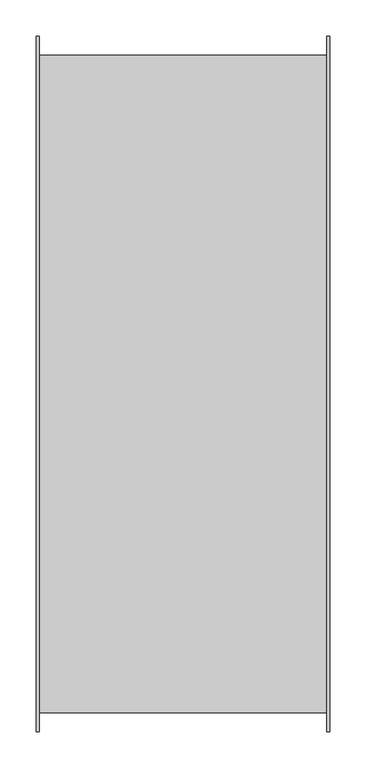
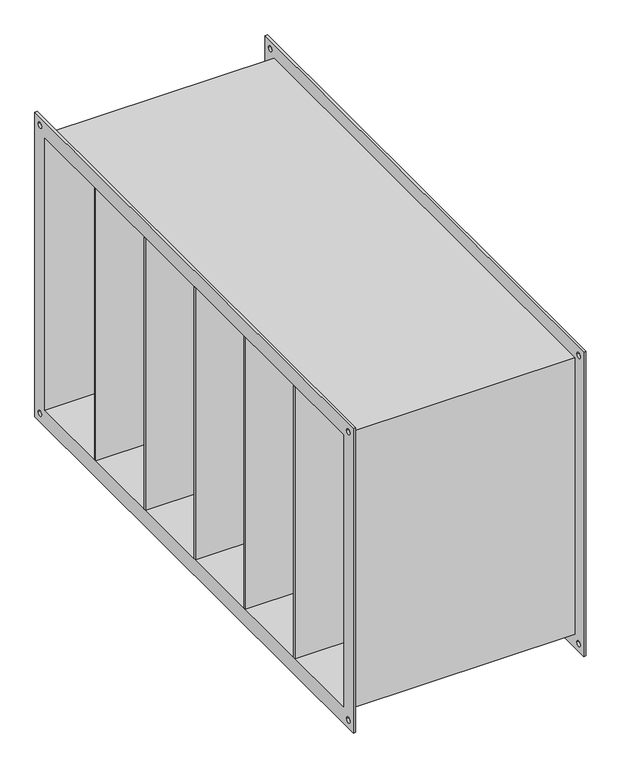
"""IFC4 building model written with IfcOpenShell, lengths in millimetres: damper geometry, СВ_ФильтрКарманныйУкороченный_КанальныйПрямоугольный_200-1000_SFPKU : SFPKU-900x500."""

from ifc_helpers import new_model, si_unit, frame, origin, place, context, project, spatial, polyline, circle_curve, outline, extrude, source, transform, mapped, element, save
from ifc_brep_helpers import plane_surface, revolved_surface, advanced_brep


def damper_0f03f78e(model_context):
    return source(origin(), model_context, "Body", "SolidModel", [
        extrude(outline(polyline([(202.5, 300.0), (202.5, 296.0), (-202.5, 296.0), (-202.5, 300.0), (202.5, 300.0)])), frame((0.0, 0.0, -250.0), z_axis=(0.0, 0.0, 1.0), x_axis=(1.0, 0.0, 0.0)), (0.0, 0.0, 1.0), 500.0),
        extrude(outline(polyline([(202.5, 150.0), (202.5, 146.0), (-202.5, 146.0), (-202.5, 150.0), (202.5, 150.0)])), frame((0.0, 0.0, -250.0), z_axis=(0.0, 0.0, 1.0), x_axis=(1.0, 0.0, 0.0)), (0.0, 0.0, 1.0), 500.0),
        extrude(outline(polyline([(202.5, 0.0), (202.5, -4.0), (-202.5, -4.0), (-202.5, 0.0), (202.5, 0.0)])), frame((0.0, 0.0, -250.0), z_axis=(0.0, 0.0, 1.0), x_axis=(1.0, 0.0, 0.0)), (0.0, 0.0, 1.0), 500.0),
        extrude(outline(polyline([(202.5, -150.0), (202.5, -154.0), (-202.5, -154.0), (-202.5, -150.0), (202.5, -150.0)])), frame((0.0, 0.0, -250.0), z_axis=(0.0, 0.0, 1.0), x_axis=(1.0, 0.0, 0.0)), (0.0, 0.0, 1.0), 500.0),
        extrude(outline(polyline([(202.5, -300.0), (202.5, -304.0), (-202.5, -304.0), (-202.5, -300.0), (202.5, -300.0)])), frame((0.0, 0.0, -250.0), z_axis=(0.0, 0.0, 1.0), x_axis=(1.0, 0.0, 0.0)), (0.0, 0.0, 1.0), 500.0),
        advanced_brep(
        [(198.5, -454.0, 254.0), (-198.5, -454.0, 254.0), (-198.5, -454.0, -254.0), (198.5, -454.0, -254.0), (-198.5, 454.0, -254.0), (198.5, 454.0, -254.0), (-198.5, 454.0, 254.0), (198.5, 454.0, 254.0), (-202.5, -480.0, 280.0), (-202.5, 480.0, 280.0), (-202.5, 480.0, -280.0), (-202.5, -480.0, -280.0), (-202.5, -450.0, 250.0), (-202.5, -450.0, -250.0), (-202.5, 450.0, -250.0), (-202.5, 450.0, 250.0), (-202.5, 460.0, 265.0), (-202.5, 470.0, 265.0), (-202.5, -470.0, 265.0), (-202.5, -460.0, 265.0), (-202.5, -470.0, -265.0), (-202.5, -460.0, -265.0), (-202.5, 460.0, -265.0), (-202.5, 470.0, -265.0), (-198.5, -480.0, 280.0), (-198.5, -480.0, -280.0), (-198.5, 480.0, -280.0), (-198.5, 480.0, 280.0), (-198.5, 470.0, 265.0), (-198.5, 460.0, 265.0), (-198.5, -460.0, 265.0), (-198.5, -470.0, 265.0), (-198.5, -460.0, -265.0), (-198.5, -470.0, -265.0), (-198.5, 470.0, -265.0), (-198.5, 460.0, -265.0), (202.5, 450.0, 250.0), (202.5, -450.0, 250.0), (202.5, 450.0, -250.0), (202.5, -450.0, -250.0), (198.5, 480.0, 280.0), (198.5, 480.0, -280.0), (198.5, -480.0, -280.0), (198.5, -480.0, 280.0), (198.5, 460.0, 265.0), (198.5, 470.0, 265.0), (198.5, -470.0, 265.0), (198.5, -460.0, 265.0), (198.5, -470.0, -265.0), (198.5, -460.0, -265.0), (198.5, 460.0, -265.0), (198.5, 470.0, -265.0), (202.5, 480.0, 280.0), (202.5, -480.0, 280.0), (202.5, -480.0, -280.0), (202.5, 480.0, -280.0), (202.5, 470.0, 265.0), (202.5, 460.0, 265.0), (202.5, -460.0, 265.0), (202.5, -470.0, 265.0), (202.5, -460.0, -265.0), (202.5, -470.0, -265.0), (202.5, 470.0, -265.0), (202.5, 460.0, -265.0)],
        [
            (0, 1),
            (1, 2),
            (2, 3),
            (3, 0),
            (2, 4),
            (4, 5),
            (5, 3),
            (4, 6),
            (6, 7),
            (7, 5),
            (0, 7),
            (6, 1),
            (8, 9),
            (9, 10),
            (10, 11),
            (11, 8),
            (12, 13),
            (13, 14),
            (14, 15),
            (15, 12),
            (16, 17, circle_curve(frame((-202.5, 465.0, 265.0), z_axis=(1.0, 0.0, 0.0), x_axis=(0.0, 1.0, 0.0)), 5.0)),
            (17, 16, circle_curve(frame((-202.5, 465.0, 265.0), z_axis=(1.0, 0.0, 0.0), x_axis=(0.0, 1.0, 0.0)), 5.0)),
            (18, 19, circle_curve(frame((-202.5, -465.0, 265.0), z_axis=(1.0, 0.0, 0.0), x_axis=(0.0, 1.0, 0.0)), 5.0)),
            (19, 18, circle_curve(frame((-202.5, -465.0, 265.0), z_axis=(1.0, 0.0, 0.0), x_axis=(0.0, 1.0, 0.0)), 5.0)),
            (20, 21, circle_curve(frame((-202.5, -465.0, -265.0), z_axis=(1.0, 0.0, 0.0), x_axis=(0.0, 1.0, 0.0)), 5.0)),
            (21, 20, circle_curve(frame((-202.5, -465.0, -265.0), z_axis=(1.0, 0.0, 0.0), x_axis=(0.0, 1.0, 0.0)), 5.0)),
            (22, 23, circle_curve(frame((-202.5, 465.0, -265.0), z_axis=(1.0, 0.0, 0.0), x_axis=(0.0, 1.0, 0.0)), 5.0)),
            (23, 22, circle_curve(frame((-202.5, 465.0, -265.0), z_axis=(1.0, 0.0, 0.0), x_axis=(0.0, 1.0, 0.0)), 5.0)),
            (24, 25),
            (25, 26),
            (26, 27),
            (27, 24),
            (28, 29, circle_curve(frame((-198.5, 465.0, 265.0), z_axis=(-1.0, 0.0, 0.0), x_axis=(0.0, 1.0, 0.0)), 5.0)),
            (29, 28, circle_curve(frame((-198.5, 465.0, 265.0), z_axis=(-1.0, 0.0, 0.0), x_axis=(0.0, 1.0, 0.0)), 5.0)),
            (30, 31, circle_curve(frame((-198.5, -465.0, 265.0), z_axis=(-1.0, 0.0, 0.0), x_axis=(0.0, 1.0, 0.0)), 5.0)),
            (31, 30, circle_curve(frame((-198.5, -465.0, 265.0), z_axis=(-1.0, 0.0, 0.0), x_axis=(0.0, 1.0, 0.0)), 5.0)),
            (32, 33, circle_curve(frame((-198.5, -465.0, -265.0), z_axis=(-1.0, 0.0, 0.0), x_axis=(0.0, 1.0, 0.0)), 5.0)),
            (33, 32, circle_curve(frame((-198.5, -465.0, -265.0), z_axis=(-1.0, 0.0, 0.0), x_axis=(0.0, 1.0, 0.0)), 5.0)),
            (34, 35, circle_curve(frame((-198.5, 465.0, -265.0), z_axis=(-1.0, 0.0, 0.0), x_axis=(0.0, 1.0, 0.0)), 5.0)),
            (35, 34, circle_curve(frame((-198.5, 465.0, -265.0), z_axis=(-1.0, 0.0, 0.0), x_axis=(0.0, 1.0, 0.0)), 5.0)),
            (11, 25),
            (24, 8),
            (10, 26),
            (9, 27),
            (15, 36),
            (36, 37),
            (37, 12),
            (14, 38),
            (38, 36),
            (13, 39),
            (39, 38),
            (37, 39),
            (40, 41),
            (41, 42),
            (42, 43),
            (43, 40),
            (44, 45, circle_curve(frame((198.5, 465.0, 265.0), z_axis=(1.0, 0.0, 0.0), x_axis=(0.0, 1.0, 0.0)), 5.0)),
            (45, 44, circle_curve(frame((198.5, 465.0, 265.0), z_axis=(1.0, 0.0, 0.0), x_axis=(0.0, 1.0, 0.0)), 5.0)),
            (46, 47, circle_curve(frame((198.5, -465.0, 265.0), z_axis=(1.0, 0.0, 0.0), x_axis=(0.0, 1.0, 0.0)), 5.0)),
            (47, 46, circle_curve(frame((198.5, -465.0, 265.0), z_axis=(1.0, 0.0, 0.0), x_axis=(0.0, 1.0, 0.0)), 5.0)),
            (48, 49, circle_curve(frame((198.5, -465.0, -265.0), z_axis=(1.0, 0.0, 0.0), x_axis=(0.0, 1.0, 0.0)), 5.0)),
            (49, 48, circle_curve(frame((198.5, -465.0, -265.0), z_axis=(1.0, 0.0, 0.0), x_axis=(0.0, 1.0, 0.0)), 5.0)),
            (50, 51, circle_curve(frame((198.5, 465.0, -265.0), z_axis=(1.0, 0.0, 0.0), x_axis=(0.0, 1.0, 0.0)), 5.0)),
            (51, 50, circle_curve(frame((198.5, 465.0, -265.0), z_axis=(1.0, 0.0, 0.0), x_axis=(0.0, 1.0, 0.0)), 5.0)),
            (52, 53),
            (53, 54),
            (54, 55),
            (55, 52),
            (56, 57, circle_curve(frame((202.5, 465.0, 265.0), z_axis=(-1.0, 0.0, 0.0), x_axis=(0.0, 1.0, 0.0)), 5.0)),
            (57, 56, circle_curve(frame((202.5, 465.0, 265.0), z_axis=(-1.0, 0.0, 0.0), x_axis=(0.0, 1.0, 0.0)), 5.0)),
            (58, 59, circle_curve(frame((202.5, -465.0, 265.0), z_axis=(-1.0, 0.0, 0.0), x_axis=(0.0, 1.0, 0.0)), 5.0)),
            (59, 58, circle_curve(frame((202.5, -465.0, 265.0), z_axis=(-1.0, 0.0, 0.0), x_axis=(0.0, 1.0, 0.0)), 5.0)),
            (60, 61, circle_curve(frame((202.5, -465.0, -265.0), z_axis=(-1.0, 0.0, 0.0), x_axis=(0.0, 1.0, 0.0)), 5.0)),
            (61, 60, circle_curve(frame((202.5, -465.0, -265.0), z_axis=(-1.0, 0.0, 0.0), x_axis=(0.0, 1.0, 0.0)), 5.0)),
            (62, 63, circle_curve(frame((202.5, 465.0, -265.0), z_axis=(-1.0, 0.0, 0.0), x_axis=(0.0, 1.0, 0.0)), 5.0)),
            (63, 62, circle_curve(frame((202.5, 465.0, -265.0), z_axis=(-1.0, 0.0, 0.0), x_axis=(0.0, 1.0, 0.0)), 5.0)),
            (43, 53),
            (52, 40),
            (42, 54),
            (41, 55),
            (16, 29),
            (28, 17),
            (44, 57),
            (56, 45),
            (18, 31),
            (30, 19),
            (46, 59),
            (58, 47),
            (20, 33),
            (32, 21),
            (48, 61),
            (60, 49),
            (22, 35),
            (34, 23),
            (50, 63),
            (62, 51),
        ],
        [
            plane_surface(frame((198.5, -454.0, 254.0), z_axis=(0.0, -1.0, 0.0), x_axis=(-1.0, 0.0, 0.0))),
            plane_surface(frame((198.5, -454.0, -254.0), z_axis=(0.0, 0.0, -1.0), x_axis=(-1.0, 0.0, 0.0))),
            plane_surface(frame((198.5, 454.0, -254.0), z_axis=(0.0, 1.0, 0.0), x_axis=(-1.0, 0.0, 0.0))),
            plane_surface(frame((198.5, 454.0, 254.0), z_axis=(0.0, 0.0, 1.0), x_axis=(-1.0, 0.0, 0.0))),
            plane_surface(frame((-202.5, -480.0, 280.0), z_axis=(-1.0, 0.0, 0.0), x_axis=(0.0, 0.0, 1.0))),
            plane_surface(frame((-198.5, -480.0, 280.0), z_axis=(1.0, 0.0, 0.0), x_axis=(0.0, 0.0, -1.0))),
            plane_surface(frame((-198.5, -480.0, 280.0), z_axis=(0.0, -1.0, 0.0), x_axis=(-1.0, 0.0, 0.0))),
            plane_surface(frame((-198.5, -480.0, -280.0), z_axis=(0.0, 0.0, -1.0), x_axis=(-1.0, 0.0, 0.0))),
            plane_surface(frame((-198.5, 480.0, -280.0), z_axis=(0.0, 1.0, 0.0), x_axis=(-1.0, 0.0, 0.0))),
            plane_surface(frame((-198.5, 480.0, 280.0), z_axis=(0.0, 0.0, 1.0), x_axis=(-1.0, 0.0, 0.0))),
            plane_surface(frame((-198.5, -450.0, 250.0), z_axis=(0.0, 0.0, -1.0), x_axis=(-1.0, 0.0, 0.0))),
            plane_surface(frame((-198.5, 450.0, 250.0), z_axis=(0.0, -1.0, 0.0), x_axis=(-1.0, 0.0, 0.0))),
            plane_surface(frame((-198.5, 450.0, -250.0), z_axis=(0.0, 0.0, 1.0), x_axis=(-1.0, 0.0, 0.0))),
            plane_surface(frame((-198.5, -450.0, -250.0), z_axis=(0.0, 1.0, 0.0), x_axis=(-1.0, 0.0, 0.0))),
            plane_surface(frame((198.5, 450.0, -250.0), z_axis=(-1.0, 0.0, 0.0), x_axis=(0.0, 0.0, 1.0))),
            plane_surface(frame((202.5, 450.0, -250.0), z_axis=(1.0, 0.0, 0.0), x_axis=(0.0, 0.0, -1.0))),
            plane_surface(frame((202.5, 480.0, 280.0), z_axis=(0.0, 0.0, 1.0), x_axis=(-1.0, 0.0, 0.0))),
            plane_surface(frame((202.5, -480.0, 280.0), z_axis=(0.0, -1.0, 0.0), x_axis=(-1.0, 0.0, 0.0))),
            plane_surface(frame((202.5, -480.0, -280.0), z_axis=(0.0, 0.0, -1.0), x_axis=(-1.0, 0.0, 0.0))),
            plane_surface(frame((202.5, 480.0, -280.0), z_axis=(0.0, 1.0, 0.0), x_axis=(-1.0, 0.0, 0.0))),
            revolved_surface(polyline([(-198.5, 470.0, 265.0), (-202.5, 470.0, 265.0)]), (-202.5, 465.0, 265.0), (1.0, 0.0, 0.0)),
            revolved_surface(polyline([(202.5, 470.0, 265.0), (198.5, 470.0, 265.0)]), (-202.5, 465.0, 265.0), (1.0, 0.0, 0.0)),
            revolved_surface(polyline([(-198.5, -460.0, 265.0), (-202.5, -460.0, 265.0)]), (0.0, -465.0, 265.0), (1.0, 0.0, 0.0)),
            revolved_surface(polyline([(202.5, -460.0, 265.0), (198.5, -460.0, 265.0)]), (0.0, -465.0, 265.0), (1.0, 0.0, 0.0)),
            revolved_surface(polyline([(-198.5, -460.0, -265.0), (-202.5, -460.0, -265.0)]), (0.0, -465.0, -265.0), (1.0, 0.0, 0.0)),
            revolved_surface(polyline([(202.5, -460.0, -265.0), (198.5, -460.0, -265.0)]), (0.0, -465.0, -265.0), (1.0, 0.0, 0.0)),
            revolved_surface(polyline([(-198.5, 470.0, -265.0), (-202.5, 470.0, -265.0)]), (0.0, 465.0, -265.0), (1.0, 0.0, 0.0)),
            revolved_surface(polyline([(202.5, 470.0, -265.0), (198.5, 470.0, -265.0)]), (0.0, 465.0, -265.0), (1.0, 0.0, 0.0)),
        ],
        [
            (0, [[1, 2, 3, 4]]),
            (1, [[-3, 5, 6, 7]]),
            (2, [[-6, 8, 9, 10]]),
            (3, [[-1, 11, -9, 12]]),
            (4, [[13, 14, 15, 16], [17, 18, 19, 20], [21, 22], [23, 24], [25, 26], [27, 28]]),
            (5, [[29, 30, 31, 32], [-2, -12, -8, -5], [33, 34], [35, 36], [37, 38], [39, 40]]),
            (6, [[-16, 41, -29, 42]]),
            (7, [[-15, 43, -30, -41]]),
            (8, [[-14, 44, -31, -43]]),
            (9, [[-13, -42, -32, -44]]),
            (10, [[-20, 45, 46, 47]]),
            (11, [[-45, -19, 48, 49]]),
            (12, [[-48, -18, 50, 51]]),
            (13, [[-50, -17, -47, 52]]),
            (14, [[53, 54, 55, 56], [-4, -7, -10, -11], [57, 58], [59, 60], [61, 62], [63, 64]]),
            (15, [[65, 66, 67, 68], [-49, -51, -52, -46], [69, 70], [71, 72], [73, 74], [75, 76]]),
            (16, [[-56, 77, -65, 78]]),
            (17, [[-55, 79, -66, -77]]),
            (18, [[-54, 80, -67, -79]]),
            (19, [[-53, -78, -68, -80]]),
            (20, [[81, -33, 82, -21]]),
            (21, [[83, -69, 84, -57]]),
            (20, [[-81, -22, -82, -34]]),
            (21, [[-83, -58, -84, -70]]),
            (22, [[85, -35, 86, -23]]),
            (23, [[87, -71, 88, -59]]),
            (22, [[-85, -24, -86, -36]]),
            (23, [[-87, -60, -88, -72]]),
            (24, [[89, -37, 90, -25]]),
            (25, [[91, -73, 92, -61]]),
            (24, [[-89, -26, -90, -38]]),
            (25, [[-91, -62, -92, -74]]),
            (26, [[93, -39, 94, -27]]),
            (27, [[95, -75, 96, -63]]),
            (26, [[-93, -28, -94, -40]]),
            (27, [[-95, -64, -96, -76]]),
        ],
    ),
    ])


if __name__ == "__main__":
    model = new_model("IFC4")
    model_context = context("Model", 3, world=origin())
    ifc_project = project(units=[si_unit("LENGTHUNIT", "METRE", prefix="MILLI")], contexts=[model_context])
    site = spatial("IfcSite", under=ifc_project)
    building = spatial("IfcBuilding", under=site)
    placement = place(None, origin())
    damper_shape = damper_0f03f78e(model_context)
    element("IfcDamper", 1, ObjectType="СВ_ФильтрКарманныйУкороченный_КанальныйПрямоугольный_200-1000_SFPKU : SFPKU-900x500", at=placement, inside=building, context=model_context, shape_type="MappedRepresentation", body=[
        mapped(damper_shape, transform((0.0, 0.0, 0.0), x_axis=(1.0, 0.0, 0.0), y_axis=(0.0, 1.0, 0.0), z_axis=(0.0, 0.0, 1.0))),
    ])
    save(model, "model.ifc")
